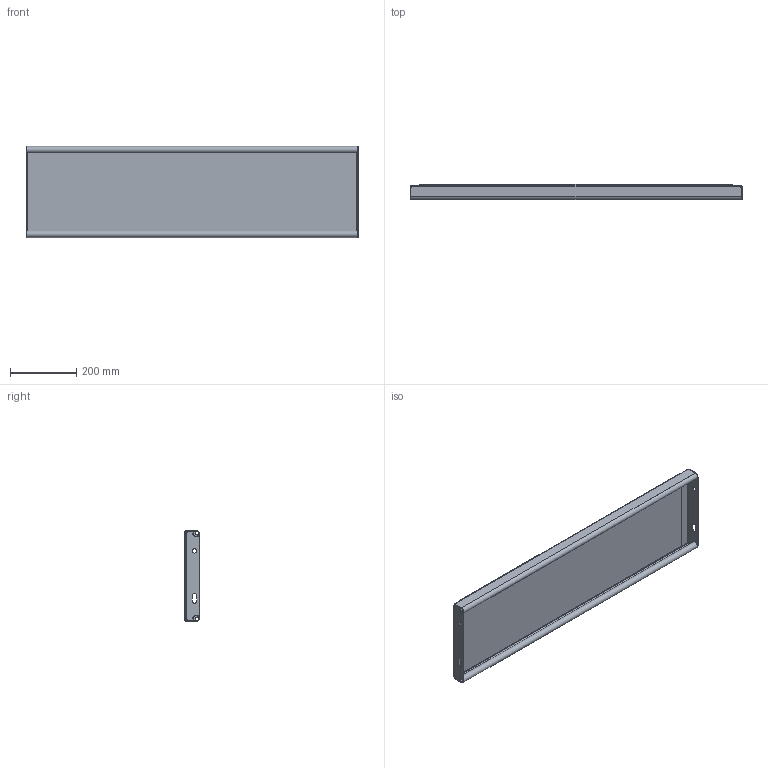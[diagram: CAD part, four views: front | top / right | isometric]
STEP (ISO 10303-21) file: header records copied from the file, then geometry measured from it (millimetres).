
FILE_DESCRIPTION (( 'STEP AP214' ), '1' );
FILE_NAME ('OPTIMO-Tread-Achil-O2-1000x275x45x2-st240-F100450100_plain.STEP', '2021-03-17T14:04:15', ( '' ), ( '' ), 'SwSTEP 2.0', 'SolidWorks 2021', '' );
FILE_SCHEMA (( 'AUTOMOTIVE_DESIGN' ));
Length unit declared in the file: millimetre
Products named in the file (1): OPTIMO-Tread-Achil-O2-1000x275x45x2-st240-F100450100_plain
Bounding box: 1000 x 45 x 275 mm (x, y, z)
Volume: 1650253.4 mm3; surface area: 911310.5 mm2
Topology: 1 solids, 1 shells, 248 faces, 640 edges, 412 vertices
Faces by surface type: plane 173, bspline 39, cylinder 36
Entity records: 9924 total; most frequent: CARTESIAN_POINT 4092, ORIENTED_EDGE 1280, DIRECTION 1022, EDGE_CURVE 640, VECTOR 490, LINE 490, VERTEX_POINT 412, EDGE_LOOP 274
